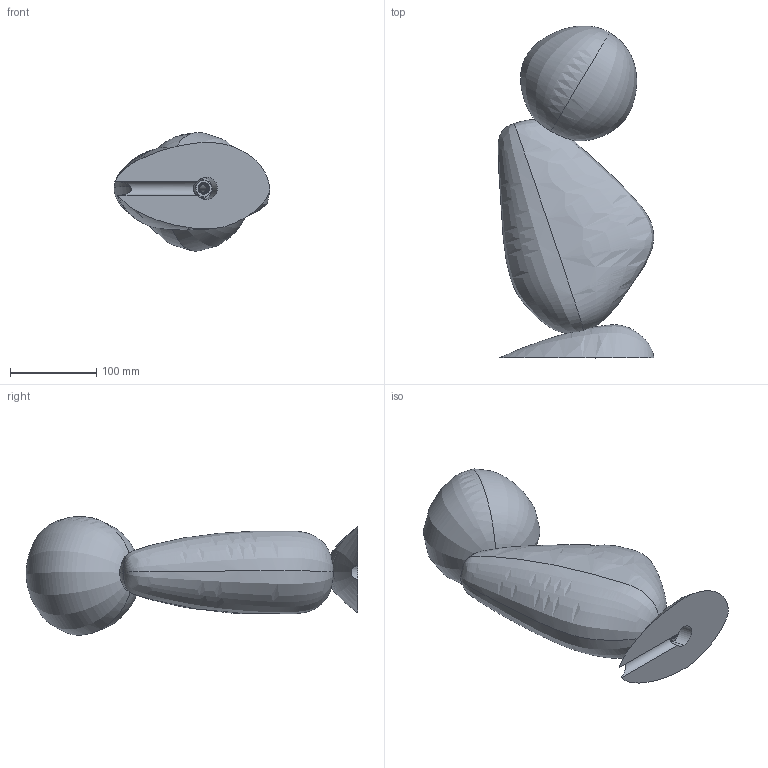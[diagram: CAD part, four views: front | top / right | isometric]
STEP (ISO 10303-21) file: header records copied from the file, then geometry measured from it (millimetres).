
FILE_DESCRIPTION (( 'STEP AP203' ), '1' );
FILE_NAME ('Ben lamp.STEP', '2024-08-06T19:18:56', ( '' ), ( '' ), 'SwSTEP 2.0', 'SolidWorks 2024', '' );
FILE_SCHEMA (( 'CONFIG_CONTROL_DESIGN' ));
Length unit declared in the file: millimetre
Products named in the file (9): M12x1.0mm Pitch to M14x1.0pitch; M12 1mm Pitch; M10x1.0mm Pitch to M12x1.0pitch; Base 2023.01.17; Body 2023.01.17; G9 Hardware; 4391N114_Fine-Thread High-Strength Zinc-Plated Steel Hex Nut_4391N114; Ben lamp; Globe 22023.01.17
Assembly tree (9 placements, depth 2):
  Ben lamp
    Base 2023.01.17
    Globe 22023.01.17
    Body 2023.01.17
    M12 1mm Pitch
    4391N114_Fine-Thread High-Strength Zinc-Plated Steel Hex Nut_4391N114
    G9 Hardware
    M12x1.0mm Pitch to M14x1.0pitch  x2
    M10x1.0mm Pitch to M12x1.0pitch
Bounding box: 180.54 x 385.05 x 137.59 mm (x, y, z)
Volume: 2518984.6 mm3; surface area: 268685.9 mm2
Topology: 15 solids, 15 shells, 449 faces, 1229 edges, 783 vertices
Faces by surface type: plane 202, cylinder 158, cone 38, sphere 26, bspline 23, torus 2
Entity records: 36025 total; most frequent: CARTESIAN_POINT 24211, ORIENTED_EDGE 2352, DIRECTION 2171, EDGE_CURVE 1176, VERTEX_POINT 775, AXIS2_PLACEMENT_3D 763, VECTOR 645, LINE 645
